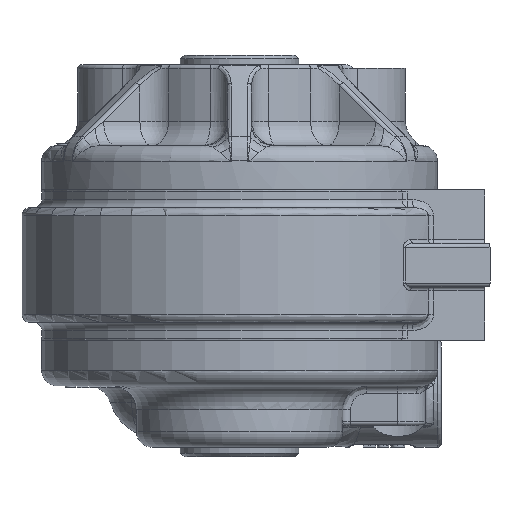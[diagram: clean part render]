
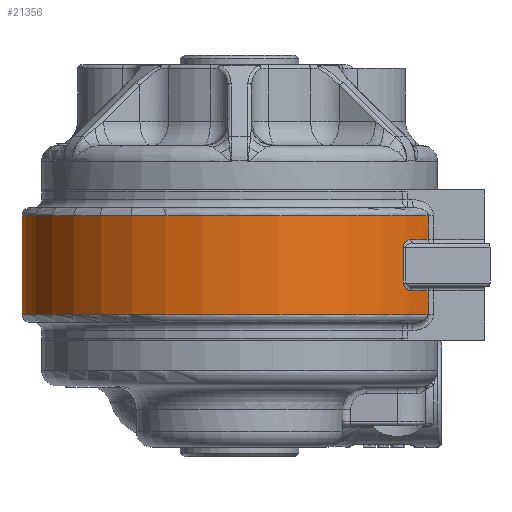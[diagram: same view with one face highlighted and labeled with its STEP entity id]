
A CAD part, front view. The second image highlights one B-rep face of the part: STEP entity #21356.
In plain terms, the highlighted cylindrical face has radius 87.325 mm (diameter 174.65 mm), a partial arc.
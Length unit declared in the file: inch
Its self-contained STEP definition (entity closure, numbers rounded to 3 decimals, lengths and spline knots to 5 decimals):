
#899=CYLINDRICAL_SURFACE('',#23098,3.438);
#2474=LINE('',#43306,#3775);
#2476=LINE('',#43326,#3777);
#2477=LINE('',#43330,#3778);
#2478=LINE('',#43334,#3779);
#3775=VECTOR('',#27725,0.568);
#3777=VECTOR('',#27755,0.3775);
#3778=VECTOR('',#27760,0.3775);
#3779=VECTOR('',#27763,1.563);
#4957=FACE_OUTER_BOUND('',#6413,.T.);
#6413=EDGE_LOOP('',(#18239,#18240,#18241,#18242,#18243,#18244,#18245,#18246,
#18247,#18248,#18249,#18250,#18251,#18252));
#7373=CIRCLE('',#23087,3.438);
#7375=CIRCLE('',#23091,3.438);
#7380=CIRCLE('',#23099,3.438);
#7381=CIRCLE('',#23100,3.438);
#8175=B_SPLINE_CURVE_WITH_KNOTS('',3,(#43222,#43223,#43224,#43225),
 .UNSPECIFIED.,.F.,.F.,(4,4),(-0.16847,-0.15303),
 .UNSPECIFIED.);
#8176=B_SPLINE_CURVE_WITH_KNOTS('',3,(#43227,#43228,#43229,#43230,#43231),
 .UNSPECIFIED.,.F.,.F.,(4,1,4),(-0.15309,-0.08742,
0.),.UNSPECIFIED.);
#8178=B_SPLINE_CURVE_WITH_KNOTS('',3,(#43243,#43244,#43245,#43246,#43247,
#43248),.UNSPECIFIED.,.F.,.F.,(4,1,1,4),(-0.61191,-0.34966,
-0.17483,-0.16847),.UNSPECIFIED.);
#8179=B_SPLINE_CURVE_WITH_KNOTS('',3,(#43286,#43287,#43288,#43289),
 .UNSPECIFIED.,.F.,.F.,(4,4),(-0.4575,-0.44213),
 .UNSPECIFIED.);
#8180=B_SPLINE_CURVE_WITH_KNOTS('',3,(#43291,#43292,#43293,#43294,#43295,
#43296),.UNSPECIFIED.,.F.,.F.,(4,1,1,4),(-0.44213,-0.4364,
-0.26184,0.),.UNSPECIFIED.);
#8181=B_SPLINE_CURVE_WITH_KNOTS('',3,(#43300,#43301,#43302,#43303,#43304),
 .UNSPECIFIED.,.F.,.F.,(4,1,4),(-0.61095,-0.52367,-0.4575),
 .UNSPECIFIED.);
#9888=VERTEX_POINT('',#43220);
#9889=VERTEX_POINT('',#43221);
#9890=VERTEX_POINT('',#43226);
#9892=VERTEX_POINT('',#43241);
#9893=VERTEX_POINT('',#43284);
#9894=VERTEX_POINT('',#43285);
#9895=VERTEX_POINT('',#43290);
#9896=VERTEX_POINT('',#43298);
#9897=VERTEX_POINT('',#43308);
#9899=VERTEX_POINT('',#43317);
#9900=VERTEX_POINT('',#43325);
#9901=VERTEX_POINT('',#43329);
#9902=VERTEX_POINT('',#43331);
#9903=VERTEX_POINT('',#43333);
#12701=EDGE_CURVE('',#9888,#9889,#8175,.T.);
#12702=EDGE_CURVE('',#9889,#9890,#8176,.T.);
#12706=EDGE_CURVE('',#9892,#9888,#8178,.T.);
#12707=EDGE_CURVE('',#9893,#9894,#8179,.T.);
#12708=EDGE_CURVE('',#9894,#9895,#8180,.T.);
#12711=EDGE_CURVE('',#9896,#9893,#8181,.T.);
#12712=EDGE_CURVE('',#9890,#9896,#2474,.T.);
#12715=EDGE_CURVE('',#9895,#9897,#7373,.T.);
#12718=EDGE_CURVE('',#9899,#9892,#7375,.T.);
#12722=EDGE_CURVE('',#9897,#9900,#2476,.T.);
#12724=EDGE_CURVE('',#9901,#9899,#2477,.T.);
#12725=EDGE_CURVE('',#9902,#9901,#7380,.T.);
#12726=EDGE_CURVE('',#9903,#9902,#2478,.T.);
#12727=EDGE_CURVE('',#9900,#9903,#7381,.T.);
#18239=ORIENTED_EDGE('',*,*,#12715,.F.);
#18240=ORIENTED_EDGE('',*,*,#12708,.F.);
#18241=ORIENTED_EDGE('',*,*,#12707,.F.);
#18242=ORIENTED_EDGE('',*,*,#12711,.F.);
#18243=ORIENTED_EDGE('',*,*,#12712,.F.);
#18244=ORIENTED_EDGE('',*,*,#12702,.F.);
#18245=ORIENTED_EDGE('',*,*,#12701,.F.);
#18246=ORIENTED_EDGE('',*,*,#12706,.F.);
#18247=ORIENTED_EDGE('',*,*,#12718,.F.);
#18248=ORIENTED_EDGE('',*,*,#12724,.F.);
#18249=ORIENTED_EDGE('',*,*,#12725,.F.);
#18250=ORIENTED_EDGE('',*,*,#12726,.F.);
#18251=ORIENTED_EDGE('',*,*,#12727,.F.);
#18252=ORIENTED_EDGE('',*,*,#12722,.F.);
#21356=ADVANCED_FACE('',(#4957),#899,.T.);
#23087=AXIS2_PLACEMENT_3D('',#43312,#27734,#27735);
#23091=AXIS2_PLACEMENT_3D('',#43319,#27743,#27744);
#23098=AXIS2_PLACEMENT_3D('',#43328,#27758,#27759);
#23099=AXIS2_PLACEMENT_3D('',#43332,#27761,#27762);
#23100=AXIS2_PLACEMENT_3D('',#43335,#27764,#27765);
#27725=DIRECTION('',(0.,0.,-1.));
#27734=DIRECTION('center_axis',(0.,0.,1.));
#27735=DIRECTION('ref_axis',(0.816,-0.578,0.));
#27743=DIRECTION('center_axis',(0.,0.,-1.));
#27744=DIRECTION('ref_axis',(0.816,-0.578,0.));
#27755=DIRECTION('',(0.,0.,-1.));
#27758=DIRECTION('center_axis',(0.,0.,1.));
#27759=DIRECTION('ref_axis',(0.986,-0.167,0.));
#27760=DIRECTION('',(0.,0.,-1.));
#27761=DIRECTION('center_axis',(0.,0.,1.));
#27762=DIRECTION('ref_axis',(-0.33,-0.944,0.));
#27763=DIRECTION('',(0.,0.,1.));
#27764=DIRECTION('center_axis',(0.,0.,-1.));
#27765=DIRECTION('ref_axis',(-0.33,-0.944,0.));
#43220=CARTESIAN_POINT('',(2.60745,-2.24077,0.344));
#43221=CARTESIAN_POINT('',(2.60488,-2.24375,0.33938));
#43222=CARTESIAN_POINT('Ctrl Pts',(2.60746,-2.24076,0.34398));
#43223=CARTESIAN_POINT('Ctrl Pts',(2.60658,-2.24178,0.34248));
#43224=CARTESIAN_POINT('Ctrl Pts',(2.60572,-2.24278,0.34094));
#43225=CARTESIAN_POINT('Ctrl Pts',(2.60489,-2.24374,0.33936));
#43226=CARTESIAN_POINT('',(2.59105,-2.25971,0.284));
#43227=CARTESIAN_POINT('Ctrl Pts',(2.6049,-2.24373,0.33938));
#43228=CARTESIAN_POINT('Ctrl Pts',(2.60136,-2.24784,0.33269));
#43229=CARTESIAN_POINT('Ctrl Pts',(2.59418,-2.25613,0.31566));
#43230=CARTESIAN_POINT('Ctrl Pts',(2.59105,-2.25971,0.29547));
#43231=CARTESIAN_POINT('Ctrl Pts',(2.59105,-2.25971,0.284));
#43241=CARTESIAN_POINT('',(2.70694,-2.11951,0.404));
#43243=CARTESIAN_POINT('Ctrl Pts',(2.70694,-2.11951,0.404));
#43244=CARTESIAN_POINT('Ctrl Pts',(2.68608,-2.14615,0.404));
#43245=CARTESIAN_POINT('Ctrl Pts',(2.65044,-2.19025,0.39345));
#43246=CARTESIAN_POINT('Ctrl Pts',(2.61823,-2.22822,0.36212));
#43247=CARTESIAN_POINT('Ctrl Pts',(2.60782,-2.24034,0.3446));
#43248=CARTESIAN_POINT('Ctrl Pts',(2.60746,-2.24076,0.34398));
#43284=CARTESIAN_POINT('',(2.60488,-2.24375,-0.33938));
#43285=CARTESIAN_POINT('',(2.60745,-2.24077,-0.344));
#43286=CARTESIAN_POINT('Ctrl Pts',(2.60491,-2.24372,-0.33934));
#43287=CARTESIAN_POINT('Ctrl Pts',(2.60574,-2.24275,-0.34091));
#43288=CARTESIAN_POINT('Ctrl Pts',(2.6066,-2.24176,-0.34245));
#43289=CARTESIAN_POINT('Ctrl Pts',(2.60748,-2.24074,-0.34396));
#43290=CARTESIAN_POINT('',(2.70694,-2.11951,-0.404));
#43291=CARTESIAN_POINT('Ctrl Pts',(2.60748,-2.24074,-0.34396));
#43292=CARTESIAN_POINT('Ctrl Pts',(2.6078,-2.24036,-0.34452));
#43293=CARTESIAN_POINT('Ctrl Pts',(2.61818,-2.22827,-0.36202));
#43294=CARTESIAN_POINT('Ctrl Pts',(2.65025,-2.19047,-0.39328));
#43295=CARTESIAN_POINT('Ctrl Pts',(2.68612,-2.14611,-0.404));
#43296=CARTESIAN_POINT('Ctrl Pts',(2.70694,-2.11951,-0.404));
#43298=CARTESIAN_POINT('',(2.59105,-2.25971,-0.284));
#43300=CARTESIAN_POINT('Ctrl Pts',(2.59105,-2.25971,-0.284));
#43301=CARTESIAN_POINT('Ctrl Pts',(2.59105,-2.25971,-0.29545));
#43302=CARTESIAN_POINT('Ctrl Pts',(2.59412,-2.2562,-0.31544));
#43303=CARTESIAN_POINT('Ctrl Pts',(2.60134,-2.24787,-0.33257));
#43304=CARTESIAN_POINT('Ctrl Pts',(2.60491,-2.24372,-0.33934));
#43306=CARTESIAN_POINT('',(2.59105,-2.25971,0.));
#43308=CARTESIAN_POINT('',(2.97944,-1.71545,-0.404));
#43312=CARTESIAN_POINT('Origin',(0.,0.,-0.404));
#43317=CARTESIAN_POINT('',(2.97944,-1.71545,0.404));
#43319=CARTESIAN_POINT('Origin',(0.,0.,0.404));
#43325=CARTESIAN_POINT('',(2.97944,-1.71545,-0.7815));
#43326=CARTESIAN_POINT('',(2.97944,-1.71545,0.));
#43328=CARTESIAN_POINT('Origin',(0.,0.,0.));
#43329=CARTESIAN_POINT('',(2.97944,-1.71545,0.7815));
#43330=CARTESIAN_POINT('',(2.97944,-1.71545,0.));
#43331=CARTESIAN_POINT('',(-3.38991,0.573,0.7815));
#43332=CARTESIAN_POINT('Origin',(0.,0.,0.7815));
#43333=CARTESIAN_POINT('',(-3.38991,0.573,-0.7815));
#43334=CARTESIAN_POINT('',(-3.38991,0.573,0.));
#43335=CARTESIAN_POINT('Origin',(0.,0.,-0.7815));
